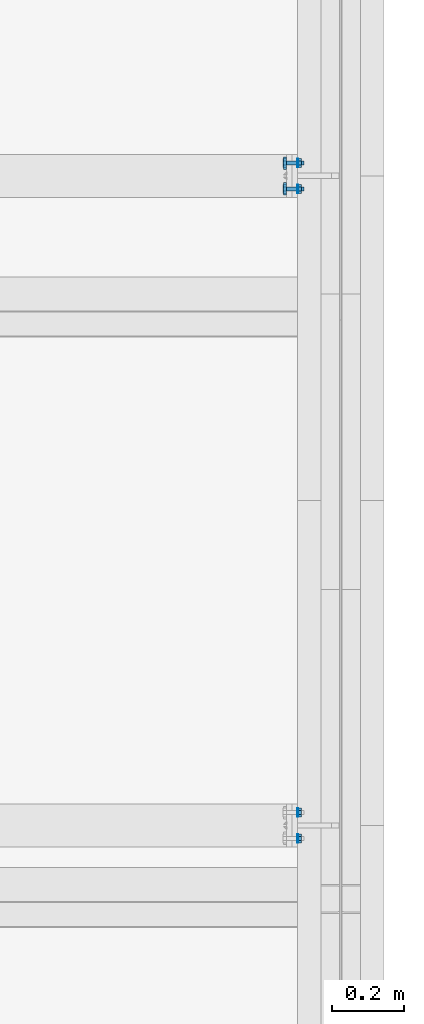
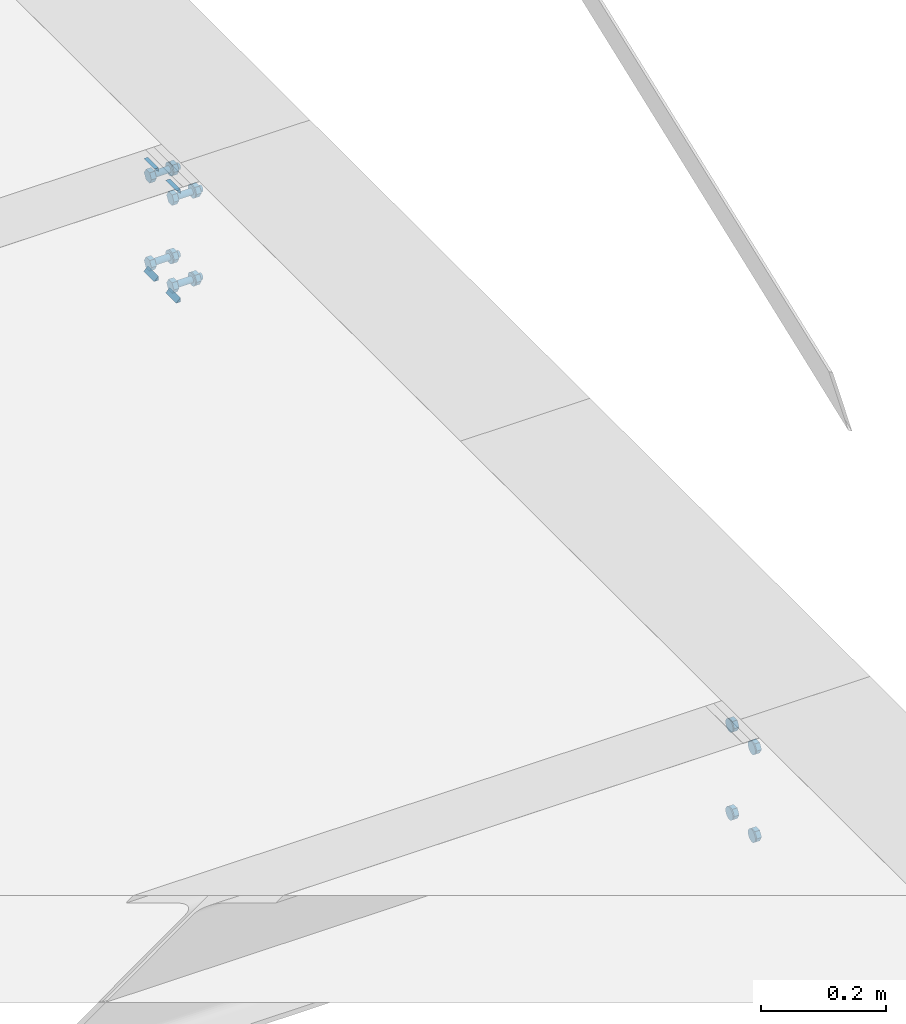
# One storey, part 58 of 66: 24 mechanical fasteners, 8 fasteners.
"""IFC4 building model written with IfcOpenShell, lengths in metres."""

import ifcopenshell
import ifcopenshell.guid

model = None  # the IFC model being written
_history = None  # IfcOwnerHistory: only IFC2X3 demands one
_inside = {}  # id of a spatial element -> (the spatial element, [elements in it])
_under = {}  # id of a project, library or spatial element -> (it, [spatial elements below it])
_declared = {}  # id of a project -> (the project, [libraries it declares])
_typed = {}  # id of a type object -> (the type object, [elements of that type])
_made_of = {}  # id of a material, layer set ... -> (it, [elements and type objects made of it])


def new_model(schema):
    """Start an empty IFC model of exactly this schema.

    Asked for "IFC4X3", IfcOpenShell would pick the latest addendum, in which some entities
    have other attributes; the version numbers below select the first issue.
    IFC2X3 requires an IfcOwnerHistory on every rooted entity: one is made here for all.
    """
    global model, _history
    if schema == "IFC4X3":
        model = ifcopenshell.file(schema_version=(4, 3, 0, 0))
    else:
        model = ifcopenshell.file(schema=schema)
    _inside.clear()
    _under.clear()
    _declared.clear()
    _typed.clear()
    _made_of.clear()
    _history = None
    if model.schema == "IFC2X3":
        org = make("IfcOrganization", Name="unknown")
        user = make(
            "IfcPersonAndOrganization",
            ThePerson=make("IfcPerson", FamilyName="unknown"),
            TheOrganization=org,
        )
        app = make(
            "IfcApplication",
            ApplicationDeveloper=org,
            Version="unknown",
            ApplicationFullName="unknown",
            ApplicationIdentifier="unknown",
        )
        _history = make(
            "IfcOwnerHistory",
            OwningUser=user,
            OwningApplication=app,
            ChangeAction="ADDED",
            CreationDate=0,
        )
    return model


def make(cls, **values):
    """One entity of the class cls with the attributes given. An attribute that is None is left unset."""
    return model.create_entity(
        cls, **{name: value for name, value in values.items() if value is not None}
    )


def rooted(cls, **values):
    """An entity with a GlobalId (a new one), such as an element, a storey or a relation."""
    return make(cls, GlobalId=ifcopenshell.guid.new(), OwnerHistory=_history, **values)


def si_unit(unit_type, name, prefix=None):
    """IfcSIUnit, for example si_unit("LENGTHUNIT", "METRE", prefix="MILLI")."""
    return make("IfcSIUnit", UnitType=unit_type, Prefix=prefix, Name=name)


def assignment(units):
    """IfcUnitAssignment: the units of a project."""
    return None if units is None else make("IfcUnitAssignment", Units=units)


def point(xyz):
    """IfcCartesianPoint."""
    return None if xyz is None else make("IfcCartesianPoint", Coordinates=xyz)


def direction(xyz):
    """IfcDirection."""
    return None if xyz is None else make("IfcDirection", DirectionRatios=xyz)


def frame(location, z_axis=None, x_axis=None):
    """IfcAxis2Placement3D, a coordinate frame: its origin and axes. An axis left out is left unset."""
    return make(
        "IfcAxis2Placement3D",
        Location=point(location),
        Axis=direction(z_axis),
        RefDirection=direction(x_axis),
    )


def origin_with_axes():
    """The frame at (0, 0, 0) with the z axis (0, 0, 1) and the x axis (1, 0, 0) written out."""
    return frame((0.0, 0.0, 0.0), z_axis=(0.0, 0.0, 1.0), x_axis=(1.0, 0.0, 0.0))


def place(relative_to, where):
    """IfcLocalPlacement: puts the frame where relative to a parent placement (None: the world)."""
    return make(
        "IfcLocalPlacement", PlacementRelTo=relative_to, RelativePlacement=where
    )


def context(
    kind, dimensions, precision=None, world=None, true_north=None, identifier=None
):
    """IfcGeometricRepresentationContext, for example the 3D "Model" context."""
    return make(
        "IfcGeometricRepresentationContext",
        ContextIdentifier=identifier,
        ContextType=kind,
        CoordinateSpaceDimension=dimensions,
        Precision=precision,
        WorldCoordinateSystem=world,
        TrueNorth=true_north,
    )


def project(units=None, contexts=None):
    """IfcProject with its units and contexts."""
    return rooted(
        "IfcProject",
        Name="project",
        RepresentationContexts=contexts,
        UnitsInContext=assignment(units),
    )


def spatial(cls, under=None, at=None, **own):
    """A site, building, storey or space (cls), placed at a placement, below another one or the project."""
    s = rooted(cls, ObjectPlacement=at, **own)
    if under is not None:
        _under.setdefault(under.id(), (under, []))[1].append(s)
    return s


def polyline(points):
    """IfcPolyline through the points."""
    return make("IfcPolyline", Points=[point(p) for p in points])


def outline(outer, holes=None, kind="AREA"):
    """IfcArbitraryClosedProfileDef: a profile drawn as a closed curve; with holes, ...WithVoids."""
    if holes is None:
        return make("IfcArbitraryClosedProfileDef", ProfileType=kind, OuterCurve=outer)
    return make(
        "IfcArbitraryProfileDefWithVoids",
        ProfileType=kind,
        OuterCurve=outer,
        InnerCurves=holes,
    )


def extrude(swept, where, along, depth):
    """IfcExtrudedAreaSolid: the profile swept, set in the frame where, extruded along a direction by depth."""
    return make(
        "IfcExtrudedAreaSolid",
        SweptArea=swept,
        Position=where,
        ExtrudedDirection=direction(along),
        Depth=depth,
    )


def shape(context_of_items, identifier, shape_type, items):
    """IfcShapeRepresentation: the items that make up one representation, for example the "Body"."""
    return make(
        "IfcShapeRepresentation",
        ContextOfItems=context_of_items,
        RepresentationIdentifier=identifier,
        RepresentationType=shape_type,
        Items=items,
    )


def made_of(thing, what):
    """Note that an element or type object is made of a material, layer set ...; save() writes the relation."""
    if what is not None:
        _made_of.setdefault(what.id(), (what, []))[1].append(thing)
    return thing


def type_object(cls, material=None, **own):
    """A type object (cls), such as IfcWallType, which elements share."""
    return made_of(rooted(cls, **own), material)


def element(
    cls,
    number,
    at=None,
    inside=None,
    cuts=None,
    type_object=None,
    material=None,
    context=None,
    identifier="Body",
    shape_type=None,
    held_by="IfcProductDefinitionShape",
    body=None,
    shapes=None,
    **own,
):
    """One element of the class cls, such as IfcWall. Its Tag is "e" and its number.

    at: its placement. inside: the storey or other place that contains it. cuts: it is an
    opening in that element (IfcRelVoidsElement). A single representation is given by context,
    identifier, shape_type and body (its items); several are given by shapes. held_by: the class
    of the entity that holds the representations. save() writes the other relations.
    """
    e = rooted(cls, Tag="e%d" % number, ObjectPlacement=at, **own)
    if body is not None:
        shapes = [shape(context, identifier, shape_type, body)]
    if shapes is not None:
        e.Representation = make(held_by, Representations=shapes)
    if inside is not None:
        _inside.setdefault(inside.id(), (inside, []))[1].append(e)
    if cuts is not None:
        rooted(
            "IfcRelVoidsElement", RelatingBuildingElement=cuts, RelatedOpeningElement=e
        )
    if type_object is not None:
        _typed.setdefault(type_object.id(), (type_object, []))[1].append(e)
    return made_of(e, material)


def aggregate(whole, parts):
    """IfcRelAggregates: a whole, such as a stair, and the parts it consists of."""
    return rooted("IfcRelAggregates", RelatingObject=whole, RelatedObjects=parts)


def save(model, path):
    """Write the relations noted so far, then the file.

    IfcRelAggregates (storeys below a building ...), IfcRelContainedInSpatialStructure (elements
    in a storey), IfcRelDefinesByType, IfcRelAssociatesMaterial and IfcRelDeclares: one each for
    every whole, place, type object, material and project.
    """
    for whole, parts in _under.values():
        aggregate(whole, parts)
    for where, things in _inside.values():
        rooted(
            "IfcRelContainedInSpatialStructure",
            RelatedElements=things,
            RelatingStructure=where,
        )
    for kind, things in _typed.values():
        rooted("IfcRelDefinesByType", RelatedObjects=things, RelatingType=kind)
    for what, things in _made_of.values():
        rooted("IfcRelAssociatesMaterial", RelatedObjects=things, RelatingMaterial=what)
    for by, libraries in _declared.values():
        rooted("IfcRelDeclares", RelatingContext=by, RelatedDefinitions=libraries)
    model.write(path)


model = new_model("IFC4")

# Units and contexts
model_context = context("Model", 3, precision=1e-05, world=origin_with_axes())
ifc_project = project(units=[si_unit("LENGTHUNIT", "METRE"), si_unit("AREAUNIT", "SQUARE_METRE"), si_unit("VOLUMEUNIT", "CUBIC_METRE"), si_unit("MASSUNIT", "GRAM", prefix="KILO"), si_unit("TIMEUNIT", "SECOND"), si_unit("PLANEANGLEUNIT", "RADIAN"), si_unit("SOLIDANGLEUNIT", "STERADIAN"), si_unit("THERMODYNAMICTEMPERATUREUNIT", "DEGREE_CELSIUS")], contexts=[model_context])

# Site, building, storey
placement_1 = place(None, origin_with_axes())
site = spatial("IfcSite", under=ifc_project, at=placement_1, Name="Italia", CompositionType="ELEMENT")
building = spatial("IfcBuilding", under=site, at=placement_1, Name="Uffici", CompositionType="ELEMENT")
storey_placement = place(None, frame((0.0, 0.0, 3.299999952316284), z_axis=(0.0, 0.0, 1.0), x_axis=(1.0, 0.0, 0.0)))
storey = spatial("IfcBuildingStorey", under=building, at=storey_placement, Name="Storey 1", CompositionType="ELEMENT", Elevation=3.299999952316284)

# Mechanical fasteners
mechanical_fastener_type_1 = type_object("IfcMechanicalFastenerType", Name="Collegamenti -005_-004 -015_-014 0115_0114", PredefinedType="BOLT")
placement_2 = place(placement_1, origin_with_axes())
mechanical_fastener_1_placement = place(placement_2, origin_with_axes())
element("IfcMechanicalFastener", 1, at=mechanical_fastener_1_placement, inside=storey, type_object=mechanical_fastener_type_1, Name="Collegamenti -005_-004 -015_-014 0115_0114", NominalDiameter=0.0119999, context=model_context, shape_type="SweptSolid", body=[
    extrude(outline(polyline([(0.0, 0.0), (-0.0120001, 0.0), (-0.018, 0.0103924), (-0.0120001, 0.0207846), (0.0, 0.0207846), (0.00599992, 0.0103924), (0.0, 0.0)])), frame((13.8616, 1.82667, 3.08361), z_axis=(-1.0, 0.0, 0.0), x_axis=(0.0, -1.0, 0.0)), (0.0, 0.0, 1.0), 0.00959969),
])
mechanical_fastener_type_2 = type_object("IfcMechanicalFastenerType", Name="Collegamenti -005_-004 -015_-014 0115_0114", PredefinedType="BOLT")
mechanical_fastener_2_placement = place(placement_2, origin_with_axes())
element("IfcMechanicalFastener", 2, at=mechanical_fastener_2_placement, inside=storey, type_object=mechanical_fastener_type_2, Name="Collegamenti -005_-004 -015_-014 0115_0114", NominalDiameter=0.024, context=model_context, shape_type="SweptSolid", body=[
    extrude(outline(polyline([(0.0, 0.0), (-0.000408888, -0.00310588), (-0.00160766, -0.00600004), (-0.00351465, -0.00848532), (-0.00599992, -0.0103922), (-0.00889409, -0.0115912), (-0.012, -0.0120001), (-0.0151058, -0.0115912), (-0.018, -0.0103922), (-0.0204853, -0.00848532), (-0.0223923, -0.00600004), (-0.023591, -0.00310588), (-0.0239999, 0.0), (-0.023591, 0.00310588), (-0.0223923, 0.00600004), (-0.0204853, 0.00848532), (-0.018, 0.0103922), (-0.0151058, 0.0115912), (-0.012, 0.0120001), (-0.00889409, 0.0115912), (-0.00599992, 0.0103922), (-0.00351465, 0.00848532), (-0.00160766, 0.00600004), (-0.000408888, 0.00310588), (0.0, 0.0)])), frame((13.852, 1.82067, 3.094), z_axis=(-1.0, 0.0, 0.0), x_axis=(0.0, -1.0, 0.0)), (0.0, 0.0, 1.0), 0.00199986),
])
mechanical_fastener_type_3 = type_object("IfcMechanicalFastenerType", Name="Collegamenti -005_-004 -015_-014 0115_0114", PredefinedType="BOLT")
mechanical_fastener_3_placement = place(placement_2, origin_with_axes())
element("IfcMechanicalFastener", 3, at=mechanical_fastener_3_placement, inside=storey, type_object=mechanical_fastener_type_3, Name="Collegamenti -005_-004 -015_-014 0115_0114", NominalDiameter=0.0119999, context=model_context, shape_type="SweptSolid", body=[
    extrude(outline(polyline([(0.0, 0.0), (-0.0120001, 0.0), (-0.018, 0.0103924), (-0.0120001, 0.0207846), (0.0, 0.0207846), (0.00599992, 0.0103924), (0.0, 0.0)])), frame((13.8616, 1.75467, 3.08361), z_axis=(-1.0, 0.0, 0.0), x_axis=(0.0, -1.0, 0.0)), (0.0, 0.0, 1.0), 0.00959969),
])
mechanical_fastener_type_4 = type_object("IfcMechanicalFastenerType", Name="Collegamenti -005_-004 -015_-014 0115_0114", PredefinedType="BOLT")
mechanical_fastener_4_placement = place(placement_2, origin_with_axes())
element("IfcMechanicalFastener", 4, at=mechanical_fastener_4_placement, inside=storey, type_object=mechanical_fastener_type_4, Name="Collegamenti -005_-004 -015_-014 0115_0114", NominalDiameter=0.024, context=model_context, shape_type="SweptSolid", body=[
    extrude(outline(polyline([(0.0, 0.0), (-0.000408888, -0.00310588), (-0.00160766, -0.00600004), (-0.00351465, -0.00848532), (-0.00599992, -0.0103922), (-0.00889409, -0.0115912), (-0.012, -0.0120001), (-0.0151058, -0.0115912), (-0.018, -0.0103922), (-0.0204853, -0.00848532), (-0.0223923, -0.00600004), (-0.023591, -0.00310588), (-0.0239999, 0.0), (-0.023591, 0.00310588), (-0.0223923, 0.00600004), (-0.0204853, 0.00848532), (-0.018, 0.0103922), (-0.0151058, 0.0115912), (-0.012, 0.0120001), (-0.00889409, 0.0115912), (-0.00599992, 0.0103922), (-0.00351465, 0.00848532), (-0.00160766, 0.00600004), (-0.000408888, 0.00310588), (0.0, 0.0)])), frame((13.852, 1.74867, 3.094), z_axis=(-1.0, 0.0, 0.0), x_axis=(0.0, -1.0, 0.0)), (0.0, 0.0, 1.0), 0.00199986),
])
mechanical_fastener_type_5 = type_object("IfcMechanicalFastenerType", Name="Collegamenti -005_-004 -015_-014 0115_0114", PredefinedType="BOLT")
mechanical_fastener_5_placement = place(placement_2, origin_with_axes())
element("IfcMechanicalFastener", 5, at=mechanical_fastener_5_placement, inside=storey, type_object=mechanical_fastener_type_5, Name="Collegamenti -005_-004 -015_-014 0115_0114", NominalDiameter=0.0119999, context=model_context, shape_type="SweptSolid", body=[
    extrude(outline(polyline([(0.0, 0.0), (-0.0120001, 0.0), (-0.018, 0.0103922), (-0.0120001, 0.0207846), (0.0, 0.0207846), (0.00599992, 0.0103922), (0.0, 0.0)])), frame((13.8616, 1.82667, 3.25561), z_axis=(-1.0, 0.0, 0.0), x_axis=(0.0, -1.0, 0.0)), (0.0, 0.0, 1.0), 0.00959969),
])
mechanical_fastener_type_6 = type_object("IfcMechanicalFastenerType", Name="Collegamenti -005_-004 -015_-014 0115_0114", PredefinedType="BOLT")
mechanical_fastener_6_placement = place(placement_2, origin_with_axes())
element("IfcMechanicalFastener", 6, at=mechanical_fastener_6_placement, inside=storey, type_object=mechanical_fastener_type_6, Name="Collegamenti -005_-004 -015_-014 0115_0114", NominalDiameter=0.024, context=model_context, shape_type="SweptSolid", body=[
    extrude(outline(polyline([(0.0, 0.0), (-0.000408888, -0.00310588), (-0.00160766, -0.00600004), (-0.00351465, -0.00848532), (-0.00599992, -0.0103922), (-0.00889409, -0.0115912), (-0.012, -0.0120001), (-0.0151058, -0.0115912), (-0.018, -0.0103922), (-0.0204853, -0.00848532), (-0.0223923, -0.00600004), (-0.023591, -0.00310588), (-0.0239999, 0.0), (-0.023591, 0.00310588), (-0.0223923, 0.00600004), (-0.0204853, 0.00848532), (-0.018, 0.0103922), (-0.0151058, 0.0115912), (-0.012, 0.0120001), (-0.00889409, 0.0115912), (-0.00599992, 0.0103922), (-0.00351465, 0.00848532), (-0.00160766, 0.00600004), (-0.000408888, 0.00310588), (0.0, 0.0)])), frame((13.852, 1.82067, 3.266), z_axis=(-1.0, 0.0, 0.0), x_axis=(0.0, -1.0, 0.0)), (0.0, 0.0, 1.0), 0.00199986),
])
mechanical_fastener_type_7 = type_object("IfcMechanicalFastenerType", Name="Collegamenti -005_-004 -015_-014 0115_0114", PredefinedType="BOLT")
mechanical_fastener_7_placement = place(placement_2, origin_with_axes())
element("IfcMechanicalFastener", 7, at=mechanical_fastener_7_placement, inside=storey, type_object=mechanical_fastener_type_7, Name="Collegamenti -005_-004 -015_-014 0115_0114", NominalDiameter=0.0119999, context=model_context, shape_type="SweptSolid", body=[
    extrude(outline(polyline([(0.0, 0.0), (-0.0120001, 0.0), (-0.018, 0.0103922), (-0.0120001, 0.0207846), (0.0, 0.0207846), (0.00599992, 0.0103922), (0.0, 0.0)])), frame((13.8616, 1.75467, 3.25561), z_axis=(-1.0, 0.0, 0.0), x_axis=(0.0, -1.0, 0.0)), (0.0, 0.0, 1.0), 0.00959969),
])
mechanical_fastener_type_8 = type_object("IfcMechanicalFastenerType", Name="Collegamenti -005_-004 -015_-014 0115_0114", PredefinedType="BOLT")
mechanical_fastener_8_placement = place(placement_2, origin_with_axes())
element("IfcMechanicalFastener", 8, at=mechanical_fastener_8_placement, inside=storey, type_object=mechanical_fastener_type_8, Name="Collegamenti -005_-004 -015_-014 0115_0114", NominalDiameter=0.024, context=model_context, shape_type="SweptSolid", body=[
    extrude(outline(polyline([(0.0, 0.0), (-0.000408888, -0.00310588), (-0.00160766, -0.00600004), (-0.00351465, -0.00848532), (-0.00599992, -0.0103922), (-0.00889409, -0.0115912), (-0.012, -0.0120001), (-0.0151058, -0.0115912), (-0.018, -0.0103922), (-0.0204853, -0.00848532), (-0.0223923, -0.00600004), (-0.023591, -0.00310588), (-0.0239999, 0.0), (-0.023591, 0.00310588), (-0.0223923, 0.00600004), (-0.0204853, 0.00848532), (-0.018, 0.0103922), (-0.0151058, 0.0115912), (-0.012, 0.0120001), (-0.00889409, 0.0115912), (-0.00599992, 0.0103922), (-0.00351465, 0.00848532), (-0.00160766, 0.00600004), (-0.000408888, 0.00310588), (0.0, 0.0)])), frame((13.852, 1.74867, 3.266), z_axis=(-1.0, 0.0, 0.0), x_axis=(0.0, -1.0, 0.0)), (0.0, 0.0, 1.0), 0.00199986),
])

# Fasteners
fastener_type_1 = type_object("IfcFastenerType", Name="Collegamenti -005_-004 -015_-014 0115_0114", PredefinedType="WELD")
fastener_1_placement = place(placement_2, origin_with_axes())
element("IfcFastener", 9, at=fastener_1_placement, inside=storey, type_object=fastener_type_1, Name="Collegamenti -005_-004 -015_-014 0115_0114", context=model_context, shape_type="SweptSolid", body=[
    extrude(outline(polyline([(0.0, 0.0), (-0.00817299, 0.00792813), (0.0, 0.00792813), (0.0, 0.0)])), frame((13.8201, 3.57528, 3.28232), z_axis=(0.0, -1.0, 0.0), x_axis=(1.0, 0.0, 0.0)), (0.0, 0.0, 1.0), 0.0339999),
])
fastener_type_2 = type_object("IfcFastenerType", Name="Collegamenti -005_-004 -015_-014 0115_0114", PredefinedType="WELD")
fastener_2_placement = place(placement_2, origin_with_axes())
element("IfcFastener", 10, at=fastener_2_placement, inside=storey, type_object=fastener_type_2, Name="Collegamenti -005_-004 -015_-014 0115_0114", context=model_context, shape_type="SweptSolid", body=[
    extrude(outline(polyline([(0.0, 0.0), (0.00817299, -0.00792813), (0.0, -0.00792813), (0.0, 0.0)])), frame((13.8201, 3.54128, 3.07768), z_axis=(0.0, 1.0, 0.0), x_axis=(-1.0, 0.0, 0.0)), (0.0, 0.0, 1.0), 0.0339999),
])
fastener_type_3 = type_object("IfcFastenerType", Name="Collegamenti -005_-004 -015_-014 0115_0114", PredefinedType="WELD")
fastener_3_placement = place(placement_2, origin_with_axes())
element("IfcFastener", 11, at=fastener_3_placement, inside=storey, type_object=fastener_type_3, Name="Collegamenti -005_-004 -015_-014 0115_0114", context=model_context, shape_type="SweptSolid", body=[
    extrude(outline(polyline([(0.0, 0.0), (0.00817299, -0.00792813), (0.0, -0.00792813), (0.0, 0.0)])), frame((13.8201, 3.61138, 3.07768), z_axis=(0.0, 1.0, 0.0), x_axis=(-1.0, 0.0, 0.0)), (0.0, 0.0, 1.0), 0.0339999),
])
fastener_type_4 = type_object("IfcFastenerType", Name="Collegamenti -005_-004 -015_-014 0115_0114", PredefinedType="WELD")
fastener_4_placement = place(placement_2, origin_with_axes())
element("IfcFastener", 12, at=fastener_4_placement, inside=storey, type_object=fastener_type_4, Name="Collegamenti -005_-004 -015_-014 0115_0114", context=model_context, shape_type="SweptSolid", body=[
    extrude(outline(polyline([(0.0, 0.0), (-0.00817299, 0.00792813), (0.0, 0.00792813), (0.0, 0.0)])), frame((13.8201, 3.64538, 3.28232), z_axis=(0.0, -1.0, 0.0), x_axis=(1.0, 0.0, 0.0)), (0.0, 0.0, 1.0), 0.0339999),
])
fastener_type_5 = type_object("IfcFastenerType", Name="Collegamenti -005_-004 -015_-014 0115_0114", PredefinedType="WELD")
fastener_5_placement = place(placement_2, origin_with_axes())
element("IfcFastener", 13, at=fastener_5_placement, inside=storey, type_object=fastener_type_5, Name="Collegamenti -005_-004 -015_-014 0115_0114", context=model_context, shape_type="SweptSolid", body=[
    extrude(outline(polyline([(0.0, 0.0), (-0.00817299, 0.00792813), (0.0, 0.00792813), (0.0, 0.0)])), frame((13.8201, 3.57528, 3.28232), z_axis=(0.0, -1.0, 0.0), x_axis=(1.0, 0.0, 0.0)), (0.0, 0.0, 1.0), 0.0339999),
])
fastener_type_6 = type_object("IfcFastenerType", Name="Collegamenti -005_-004 -015_-014 0115_0114", PredefinedType="WELD")
fastener_6_placement = place(placement_2, origin_with_axes())
element("IfcFastener", 14, at=fastener_6_placement, inside=storey, type_object=fastener_type_6, Name="Collegamenti -005_-004 -015_-014 0115_0114", context=model_context, shape_type="SweptSolid", body=[
    extrude(outline(polyline([(0.0, 0.0), (0.00817299, -0.00792813), (0.0, -0.00792813), (0.0, 0.0)])), frame((13.8201, 3.54128, 3.07768), z_axis=(0.0, 1.0, 0.0), x_axis=(-1.0, 0.0, 0.0)), (0.0, 0.0, 1.0), 0.0339999),
])
fastener_type_7 = type_object("IfcFastenerType", Name="Collegamenti -005_-004 -015_-014 0115_0114", PredefinedType="WELD")
fastener_7_placement = place(placement_2, origin_with_axes())
element("IfcFastener", 15, at=fastener_7_placement, inside=storey, type_object=fastener_type_7, Name="Collegamenti -005_-004 -015_-014 0115_0114", context=model_context, shape_type="SweptSolid", body=[
    extrude(outline(polyline([(0.0, 0.0), (0.00817299, -0.00792813), (0.0, -0.00792813), (0.0, 0.0)])), frame((13.8201, 3.61138, 3.07768), z_axis=(0.0, 1.0, 0.0), x_axis=(-1.0, 0.0, 0.0)), (0.0, 0.0, 1.0), 0.0339999),
])
fastener_type_8 = type_object("IfcFastenerType", Name="Collegamenti -005_-004 -015_-014 0115_0114", PredefinedType="WELD")
fastener_8_placement = place(placement_2, origin_with_axes())
element("IfcFastener", 16, at=fastener_8_placement, inside=storey, type_object=fastener_type_8, Name="Collegamenti -005_-004 -015_-014 0115_0114", context=model_context, shape_type="SweptSolid", body=[
    extrude(outline(polyline([(0.0, 0.0), (-0.00817299, 0.00792813), (0.0, 0.00792813), (0.0, 0.0)])), frame((13.8201, 3.64538, 3.28232), z_axis=(0.0, -1.0, 0.0), x_axis=(1.0, 0.0, 0.0)), (0.0, 0.0, 1.0), 0.0339999),
])

# Mechanical fasteners
mechanical_fastener_type_9 = type_object("IfcMechanicalFastenerType", Name="Collegamenti -005_-004 -015_-014 0115_0114", PredefinedType="BOLT")
mechanical_fastener_9_placement = place(placement_2, origin_with_axes())
element("IfcMechanicalFastener", 17, at=mechanical_fastener_9_placement, inside=storey, type_object=mechanical_fastener_type_9, Name="Collegamenti -005_-004 -015_-014 0115_0114", NominalDiameter=0.0119999, context=model_context, shape_type="SweptSolid", body=[
    extrude(outline(polyline([(0.0, 0.0), (-0.0120001, 0.0), (-0.0180001, 0.0103924), (-0.0120001, 0.0207846), (0.0, 0.0207846), (0.00600004, 0.0103924), (0.0, 0.0)])), frame((13.82, 3.62333, 3.08361), z_axis=(-1.0, 0.0, 0.0), x_axis=(0.0, -1.0, 0.0)), (0.0, 0.0, 1.0), 0.00960064),
])
mechanical_fastener_type_10 = type_object("IfcMechanicalFastenerType", Name="Collegamenti -005_-004 -015_-014 0115_0114", PredefinedType="BOLT")
mechanical_fastener_10_placement = place(placement_2, origin_with_axes())
element("IfcMechanicalFastener", 18, at=mechanical_fastener_10_placement, inside=storey, type_object=mechanical_fastener_type_10, Name="Collegamenti -005_-004 -015_-014 0115_0114", NominalDiameter=0.012, context=model_context, shape_type="SweptSolid", body=[
    extrude(outline(polyline([(0.0, 0.0), (-0.000204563, -0.00155282), (-0.000803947, -0.00300002), (-0.00175738, -0.00424266), (-0.00300002, -0.00519609), (-0.00444722, -0.00579548), (-0.00600004, -0.00600004), (-0.00755286, -0.00579548), (-0.00900006, -0.00519609), (-0.0102427, -0.00424266), (-0.0111961, -0.00300002), (-0.0117955, -0.00155282), (-0.0120001, 0.0), (-0.0117955, 0.00155282), (-0.0111961, 0.00300002), (-0.0102427, 0.00424266), (-0.00900006, 0.00519609), (-0.00755286, 0.00579548), (-0.00600004, 0.00600004), (-0.00444722, 0.00579548), (-0.00300002, 0.00519609), (-0.00175738, 0.00424266), (-0.000803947, 0.00300002), (-0.000204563, 0.00155282), (0.0, 0.0)])), frame((13.868, 3.62333, 3.094), z_axis=(-1.0, 0.0, 0.0), x_axis=(0.0, -1.0, 0.0)), (0.0, 0.0, 1.0), 0.0479994),
])
mechanical_fastener_type_11 = type_object("IfcMechanicalFastenerType", Name="Collegamenti -005_-004 -015_-014 0115_0114", PredefinedType="BOLT")
mechanical_fastener_11_placement = place(placement_2, origin_with_axes())
element("IfcMechanicalFastener", 19, at=mechanical_fastener_11_placement, inside=storey, type_object=mechanical_fastener_type_11, Name="Collegamenti -005_-004 -015_-014 0115_0114", NominalDiameter=0.0119999, context=model_context, shape_type="SweptSolid", body=[
    extrude(outline(polyline([(0.0, 0.0), (-0.0120001, 0.0), (-0.0180001, 0.0103924), (-0.0120001, 0.0207846), (0.0, 0.0207846), (0.00600004, 0.0103924), (0.0, 0.0)])), frame((13.8616, 3.62333, 3.08361), z_axis=(-1.0, 0.0, 0.0), x_axis=(0.0, -1.0, 0.0)), (0.0, 0.0, 1.0), 0.00959969),
])
mechanical_fastener_type_12 = type_object("IfcMechanicalFastenerType", Name="Collegamenti -005_-004 -015_-014 0115_0114", PredefinedType="BOLT")
mechanical_fastener_12_placement = place(placement_2, origin_with_axes())
element("IfcMechanicalFastener", 20, at=mechanical_fastener_12_placement, inside=storey, type_object=mechanical_fastener_type_12, Name="Collegamenti -005_-004 -015_-014 0115_0114", NominalDiameter=0.024, context=model_context, shape_type="SweptSolid", body=[
    extrude(outline(polyline([(0.0, 0.0), (-0.000408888, -0.00310588), (-0.00160789, -0.00600004), (-0.00351477, -0.00848532), (-0.00600004, -0.0103922), (-0.00889421, -0.0115912), (-0.0120001, -0.0120001), (-0.015106, -0.0115912), (-0.0180001, -0.0103922), (-0.0204854, -0.00848532), (-0.0223923, -0.00600004), (-0.0235913, -0.00310588), (-0.0240002, 0.0), (-0.0235913, 0.00310588), (-0.0223923, 0.00600004), (-0.0204854, 0.00848532), (-0.0180001, 0.0103922), (-0.015106, 0.0115912), (-0.0120001, 0.0120001), (-0.00889421, 0.0115912), (-0.00600004, 0.0103922), (-0.00351477, 0.00848532), (-0.00160789, 0.00600004), (-0.000408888, 0.00310588), (0.0, 0.0)])), frame((13.852, 3.61733, 3.094), z_axis=(-1.0, 0.0, 0.0), x_axis=(0.0, -1.0, 0.0)), (0.0, 0.0, 1.0), 0.00199986),
])
mechanical_fastener_type_13 = type_object("IfcMechanicalFastenerType", Name="Collegamenti -005_-004 -015_-014 0115_0114", PredefinedType="BOLT")
mechanical_fastener_13_placement = place(placement_2, origin_with_axes())
element("IfcMechanicalFastener", 21, at=mechanical_fastener_13_placement, inside=storey, type_object=mechanical_fastener_type_13, Name="Collegamenti -005_-004 -015_-014 0115_0114", NominalDiameter=0.0119999, context=model_context, shape_type="SweptSolid", body=[
    extrude(outline(polyline([(0.0, 0.0), (-0.0120001, 0.0), (-0.0180001, 0.0103924), (-0.0120001, 0.0207846), (0.0, 0.0207846), (0.00600004, 0.0103924), (0.0, 0.0)])), frame((13.82, 3.55133, 3.08361), z_axis=(-1.0, 0.0, 0.0), x_axis=(0.0, -1.0, 0.0)), (0.0, 0.0, 1.0), 0.00960064),
])
mechanical_fastener_type_14 = type_object("IfcMechanicalFastenerType", Name="Collegamenti -005_-004 -015_-014 0115_0114", PredefinedType="BOLT")
mechanical_fastener_14_placement = place(placement_2, origin_with_axes())
element("IfcMechanicalFastener", 22, at=mechanical_fastener_14_placement, inside=storey, type_object=mechanical_fastener_type_14, Name="Collegamenti -005_-004 -015_-014 0115_0114", NominalDiameter=0.012, context=model_context, shape_type="SweptSolid", body=[
    extrude(outline(polyline([(0.0, 0.0), (-0.000204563, -0.00155282), (-0.000803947, -0.00300002), (-0.00175738, -0.00424266), (-0.00300002, -0.00519609), (-0.00444722, -0.00579548), (-0.00600004, -0.00600004), (-0.00755286, -0.00579548), (-0.00900006, -0.00519609), (-0.0102427, -0.00424266), (-0.0111961, -0.00300002), (-0.0117955, -0.00155282), (-0.0120001, 0.0), (-0.0117955, 0.00155282), (-0.0111961, 0.00300002), (-0.0102427, 0.00424266), (-0.00900006, 0.00519609), (-0.00755286, 0.00579548), (-0.00600004, 0.00600004), (-0.00444722, 0.00579548), (-0.00300002, 0.00519609), (-0.00175738, 0.00424266), (-0.000803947, 0.00300002), (-0.000204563, 0.00155282), (0.0, 0.0)])), frame((13.868, 3.55133, 3.094), z_axis=(-1.0, 0.0, 0.0), x_axis=(0.0, -1.0, 0.0)), (0.0, 0.0, 1.0), 0.0479994),
])
mechanical_fastener_type_15 = type_object("IfcMechanicalFastenerType", Name="Collegamenti -005_-004 -015_-014 0115_0114", PredefinedType="BOLT")
mechanical_fastener_15_placement = place(placement_2, origin_with_axes())
element("IfcMechanicalFastener", 23, at=mechanical_fastener_15_placement, inside=storey, type_object=mechanical_fastener_type_15, Name="Collegamenti -005_-004 -015_-014 0115_0114", NominalDiameter=0.0119999, context=model_context, shape_type="SweptSolid", body=[
    extrude(outline(polyline([(0.0, 0.0), (-0.0120001, 0.0), (-0.0180001, 0.0103924), (-0.0120001, 0.0207846), (0.0, 0.0207846), (0.00600004, 0.0103924), (0.0, 0.0)])), frame((13.8616, 3.55133, 3.08361), z_axis=(-1.0, 0.0, 0.0), x_axis=(0.0, -1.0, 0.0)), (0.0, 0.0, 1.0), 0.00959969),
])
mechanical_fastener_type_16 = type_object("IfcMechanicalFastenerType", Name="Collegamenti -005_-004 -015_-014 0115_0114", PredefinedType="BOLT")
mechanical_fastener_16_placement = place(placement_2, origin_with_axes())
element("IfcMechanicalFastener", 24, at=mechanical_fastener_16_placement, inside=storey, type_object=mechanical_fastener_type_16, Name="Collegamenti -005_-004 -015_-014 0115_0114", NominalDiameter=0.024, context=model_context, shape_type="SweptSolid", body=[
    extrude(outline(polyline([(0.0, 0.0), (-0.000408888, -0.00310588), (-0.00160789, -0.00600004), (-0.00351477, -0.00848532), (-0.00600004, -0.0103922), (-0.00889421, -0.0115912), (-0.0120001, -0.0120001), (-0.015106, -0.0115912), (-0.0180001, -0.0103922), (-0.0204854, -0.00848532), (-0.0223923, -0.00600004), (-0.0235913, -0.00310588), (-0.0240002, 0.0), (-0.0235913, 0.00310588), (-0.0223923, 0.00600004), (-0.0204854, 0.00848532), (-0.0180001, 0.0103922), (-0.015106, 0.0115912), (-0.0120001, 0.0120001), (-0.00889421, 0.0115912), (-0.00600004, 0.0103922), (-0.00351477, 0.00848532), (-0.00160789, 0.00600004), (-0.000408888, 0.00310588), (0.0, 0.0)])), frame((13.852, 3.54533, 3.094), z_axis=(-1.0, 0.0, 0.0), x_axis=(0.0, -1.0, 0.0)), (0.0, 0.0, 1.0), 0.00199986),
])
mechanical_fastener_type_17 = type_object("IfcMechanicalFastenerType", Name="Collegamenti -005_-004 -015_-014 0115_0114", PredefinedType="BOLT")
mechanical_fastener_17_placement = place(placement_2, origin_with_axes())
element("IfcMechanicalFastener", 25, at=mechanical_fastener_17_placement, inside=storey, type_object=mechanical_fastener_type_17, Name="Collegamenti -005_-004 -015_-014 0115_0114", NominalDiameter=0.0119999, context=model_context, shape_type="SweptSolid", body=[
    extrude(outline(polyline([(0.0, 0.0), (-0.0120001, 0.0), (-0.0180001, 0.0103922), (-0.0120001, 0.0207846), (0.0, 0.0207846), (0.00600004, 0.0103922), (0.0, 0.0)])), frame((13.82, 3.62333, 3.25561), z_axis=(-1.0, 0.0, 0.0), x_axis=(0.0, -1.0, 0.0)), (0.0, 0.0, 1.0), 0.00960064),
])
mechanical_fastener_type_18 = type_object("IfcMechanicalFastenerType", Name="Collegamenti -005_-004 -015_-014 0115_0114", PredefinedType="BOLT")
mechanical_fastener_18_placement = place(placement_2, origin_with_axes())
element("IfcMechanicalFastener", 26, at=mechanical_fastener_18_placement, inside=storey, type_object=mechanical_fastener_type_18, Name="Collegamenti -005_-004 -015_-014 0115_0114", NominalDiameter=0.012, context=model_context, shape_type="SweptSolid", body=[
    extrude(outline(polyline([(0.0, 0.0), (-0.000204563, -0.00155282), (-0.000803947, -0.00300002), (-0.00175738, -0.00424266), (-0.00300002, -0.00519609), (-0.00444722, -0.00579548), (-0.00600004, -0.00600004), (-0.00755286, -0.00579548), (-0.00900006, -0.00519609), (-0.0102427, -0.00424266), (-0.0111961, -0.00300002), (-0.0117955, -0.00155282), (-0.0120001, 0.0), (-0.0117955, 0.00155282), (-0.0111961, 0.00300002), (-0.0102427, 0.00424266), (-0.00900006, 0.00519609), (-0.00755286, 0.00579548), (-0.00600004, 0.00600004), (-0.00444722, 0.00579548), (-0.00300002, 0.00519609), (-0.00175738, 0.00424266), (-0.000803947, 0.00300002), (-0.000204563, 0.00155282), (0.0, 0.0)])), frame((13.868, 3.62333, 3.266), z_axis=(-1.0, 0.0, 0.0), x_axis=(0.0, -1.0, 0.0)), (0.0, 0.0, 1.0), 0.0479994),
])
mechanical_fastener_type_19 = type_object("IfcMechanicalFastenerType", Name="Collegamenti -005_-004 -015_-014 0115_0114", PredefinedType="BOLT")
mechanical_fastener_19_placement = place(placement_2, origin_with_axes())
element("IfcMechanicalFastener", 27, at=mechanical_fastener_19_placement, inside=storey, type_object=mechanical_fastener_type_19, Name="Collegamenti -005_-004 -015_-014 0115_0114", NominalDiameter=0.0119999, context=model_context, shape_type="SweptSolid", body=[
    extrude(outline(polyline([(0.0, 0.0), (-0.0120001, 0.0), (-0.0180001, 0.0103922), (-0.0120001, 0.0207846), (0.0, 0.0207846), (0.00600004, 0.0103922), (0.0, 0.0)])), frame((13.8616, 3.62333, 3.25561), z_axis=(-1.0, 0.0, 0.0), x_axis=(0.0, -1.0, 0.0)), (0.0, 0.0, 1.0), 0.00959969),
])
mechanical_fastener_type_20 = type_object("IfcMechanicalFastenerType", Name="Collegamenti -005_-004 -015_-014 0115_0114", PredefinedType="BOLT")
mechanical_fastener_20_placement = place(placement_2, origin_with_axes())
element("IfcMechanicalFastener", 28, at=mechanical_fastener_20_placement, inside=storey, type_object=mechanical_fastener_type_20, Name="Collegamenti -005_-004 -015_-014 0115_0114", NominalDiameter=0.024, context=model_context, shape_type="SweptSolid", body=[
    extrude(outline(polyline([(0.0, 0.0), (-0.000408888, -0.00310588), (-0.00160789, -0.00600004), (-0.00351477, -0.00848532), (-0.00600004, -0.0103922), (-0.00889421, -0.0115912), (-0.0120001, -0.0120001), (-0.015106, -0.0115912), (-0.0180001, -0.0103922), (-0.0204854, -0.00848532), (-0.0223923, -0.00600004), (-0.0235913, -0.00310588), (-0.0240002, 0.0), (-0.0235913, 0.00310588), (-0.0223923, 0.00600004), (-0.0204854, 0.00848532), (-0.0180001, 0.0103922), (-0.015106, 0.0115912), (-0.0120001, 0.0120001), (-0.00889421, 0.0115912), (-0.00600004, 0.0103922), (-0.00351477, 0.00848532), (-0.00160789, 0.00600004), (-0.000408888, 0.00310588), (0.0, 0.0)])), frame((13.852, 3.61733, 3.266), z_axis=(-1.0, 0.0, 0.0), x_axis=(0.0, -1.0, 0.0)), (0.0, 0.0, 1.0), 0.00199986),
])
mechanical_fastener_type_21 = type_object("IfcMechanicalFastenerType", Name="Collegamenti -005_-004 -015_-014 0115_0114", PredefinedType="BOLT")
mechanical_fastener_21_placement = place(placement_2, origin_with_axes())
element("IfcMechanicalFastener", 29, at=mechanical_fastener_21_placement, inside=storey, type_object=mechanical_fastener_type_21, Name="Collegamenti -005_-004 -015_-014 0115_0114", NominalDiameter=0.0119999, context=model_context, shape_type="SweptSolid", body=[
    extrude(outline(polyline([(0.0, 0.0), (-0.0120001, 0.0), (-0.0180001, 0.0103922), (-0.0120001, 0.0207846), (0.0, 0.0207846), (0.00600004, 0.0103922), (0.0, 0.0)])), frame((13.82, 3.55133, 3.25561), z_axis=(-1.0, 0.0, 0.0), x_axis=(0.0, -1.0, 0.0)), (0.0, 0.0, 1.0), 0.00960064),
])
mechanical_fastener_type_22 = type_object("IfcMechanicalFastenerType", Name="Collegamenti -005_-004 -015_-014 0115_0114", PredefinedType="BOLT")
mechanical_fastener_22_placement = place(placement_2, origin_with_axes())
element("IfcMechanicalFastener", 30, at=mechanical_fastener_22_placement, inside=storey, type_object=mechanical_fastener_type_22, Name="Collegamenti -005_-004 -015_-014 0115_0114", NominalDiameter=0.012, context=model_context, shape_type="SweptSolid", body=[
    extrude(outline(polyline([(0.0, 0.0), (-0.000204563, -0.00155282), (-0.000803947, -0.00300002), (-0.00175738, -0.00424266), (-0.00300002, -0.00519609), (-0.00444722, -0.00579548), (-0.00600004, -0.00600004), (-0.00755286, -0.00579548), (-0.00900006, -0.00519609), (-0.0102427, -0.00424266), (-0.0111961, -0.00300002), (-0.0117955, -0.00155282), (-0.0120001, 0.0), (-0.0117955, 0.00155282), (-0.0111961, 0.00300002), (-0.0102427, 0.00424266), (-0.00900006, 0.00519609), (-0.00755286, 0.00579548), (-0.00600004, 0.00600004), (-0.00444722, 0.00579548), (-0.00300002, 0.00519609), (-0.00175738, 0.00424266), (-0.000803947, 0.00300002), (-0.000204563, 0.00155282), (0.0, 0.0)])), frame((13.868, 3.55133, 3.266), z_axis=(-1.0, 0.0, 0.0), x_axis=(0.0, -1.0, 0.0)), (0.0, 0.0, 1.0), 0.0479994),
])
mechanical_fastener_type_23 = type_object("IfcMechanicalFastenerType", Name="Collegamenti -005_-004 -015_-014 0115_0114", PredefinedType="BOLT")
mechanical_fastener_23_placement = place(placement_2, origin_with_axes())
element("IfcMechanicalFastener", 31, at=mechanical_fastener_23_placement, inside=storey, type_object=mechanical_fastener_type_23, Name="Collegamenti -005_-004 -015_-014 0115_0114", NominalDiameter=0.0119999, context=model_context, shape_type="SweptSolid", body=[
    extrude(outline(polyline([(0.0, 0.0), (-0.0120001, 0.0), (-0.0180001, 0.0103922), (-0.0120001, 0.0207846), (0.0, 0.0207846), (0.00600004, 0.0103922), (0.0, 0.0)])), frame((13.8616, 3.55133, 3.25561), z_axis=(-1.0, 0.0, 0.0), x_axis=(0.0, -1.0, 0.0)), (0.0, 0.0, 1.0), 0.00959969),
])
mechanical_fastener_type_24 = type_object("IfcMechanicalFastenerType", Name="Collegamenti -005_-004 -015_-014 0115_0114", PredefinedType="BOLT")
mechanical_fastener_24_placement = place(placement_2, origin_with_axes())
element("IfcMechanicalFastener", 32, at=mechanical_fastener_24_placement, inside=storey, type_object=mechanical_fastener_type_24, Name="Collegamenti -005_-004 -015_-014 0115_0114", NominalDiameter=0.024, context=model_context, shape_type="SweptSolid", body=[
    extrude(outline(polyline([(0.0, 0.0), (-0.000408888, -0.00310588), (-0.00160789, -0.00600004), (-0.00351477, -0.00848532), (-0.00600004, -0.0103922), (-0.00889421, -0.0115912), (-0.0120001, -0.0120001), (-0.015106, -0.0115912), (-0.0180001, -0.0103922), (-0.0204854, -0.00848532), (-0.0223923, -0.00600004), (-0.0235913, -0.00310588), (-0.0240002, 0.0), (-0.0235913, 0.00310588), (-0.0223923, 0.00600004), (-0.0204854, 0.00848532), (-0.0180001, 0.0103922), (-0.015106, 0.0115912), (-0.0120001, 0.0120001), (-0.00889421, 0.0115912), (-0.00600004, 0.0103922), (-0.00351477, 0.00848532), (-0.00160789, 0.00600004), (-0.000408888, 0.00310588), (0.0, 0.0)])), frame((13.852, 3.54533, 3.266), z_axis=(-1.0, 0.0, 0.0), x_axis=(0.0, -1.0, 0.0)), (0.0, 0.0, 1.0), 0.00199986),
])

save(model, "model.ifc")
